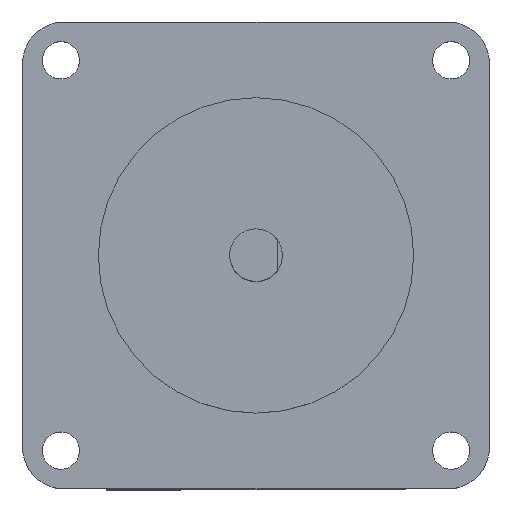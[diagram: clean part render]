
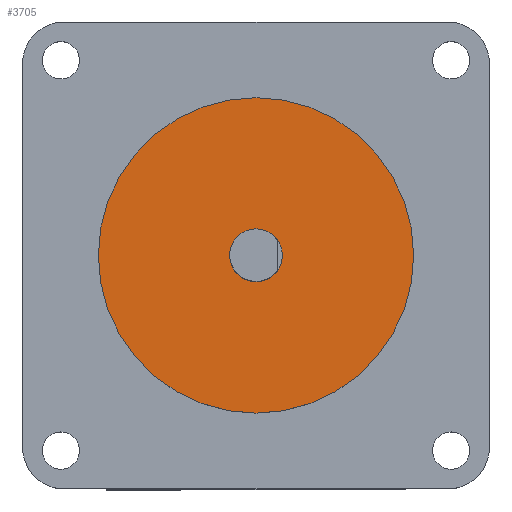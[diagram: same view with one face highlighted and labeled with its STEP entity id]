
A CAD part, top view. The second image highlights one B-rep face of the part: STEP entity #3705.
In plain terms, the highlighted planar face has unit normal (0, 0, 1).
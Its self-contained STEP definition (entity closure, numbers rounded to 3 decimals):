
#5 = CARTESIAN_POINT ( 'NONE',  ( 0., 0., 1.6 ) ) ;
#21 = CIRCLE ( 'NONE', #1662, 3.175 ) ;
#42 = DIRECTION ( 'NONE',  ( 1., 0., 0. ) ) ;
#68 = VERTEX_POINT ( 'NONE', #865 ) ;
#112 = EDGE_LOOP ( 'NONE', ( #2567, #195 ) ) ;
#195 = ORIENTED_EDGE ( 'NONE', *, *, #3518, .T. ) ;
#228 = ORIENTED_EDGE ( 'NONE', *, *, #4300, .T. ) ;
#303 = DIRECTION ( 'NONE',  ( 0., 0., 1. ) ) ;
#372 = DIRECTION ( 'NONE',  ( 1., 0., 0. ) ) ;
#378 = CARTESIAN_POINT ( 'NONE',  ( 0., 0., 1.6 ) ) ;
#704 = DIRECTION ( 'NONE',  ( 1., 0., 0. ) ) ;
#837 = CARTESIAN_POINT ( 'NONE',  ( 19.05, 0., 1.6 ) ) ;
#865 = CARTESIAN_POINT ( 'NONE',  ( -3.175, 0., 1.6 ) ) ;
#1021 = VERTEX_POINT ( 'NONE', #4201 ) ;
#1285 = AXIS2_PLACEMENT_3D ( 'NONE', #378, #2681, #704 ) ;
#1516 = FACE_BOUND ( 'NONE', #2668, .T. ) ;
#1542 = EDGE_CURVE ( 'NONE', #1021, #2063, #3403, .T. ) ;
#1595 = VERTEX_POINT ( 'NONE', #4007 ) ;
#1662 = AXIS2_PLACEMENT_3D ( 'NONE', #5, #2363, #372 ) ;
#1665 = AXIS2_PLACEMENT_3D ( 'NONE', #4069, #2070, #42 ) ;
#2017 = CARTESIAN_POINT ( 'NONE',  ( 0., 0., 1.6 ) ) ;
#2063 = VERTEX_POINT ( 'NONE', #837 ) ;
#2070 = DIRECTION ( 'NONE',  ( 0., 0., 1. ) ) ;
#2309 = CARTESIAN_POINT ( 'NONE',  ( 0., 0., 1.6 ) ) ;
#2350 = DIRECTION ( 'NONE',  ( 1., 0., 0. ) ) ;
#2363 = DIRECTION ( 'NONE',  ( 0., 0., -1. ) ) ;
#2423 = CIRCLE ( 'NONE', #1285, 3.175 ) ;
#2567 = ORIENTED_EDGE ( 'NONE', *, *, #1542, .T. ) ;
#2617 = DIRECTION ( 'NONE',  ( 1., 0., 0. ) ) ;
#2668 = EDGE_LOOP ( 'NONE', ( #228, #2991 ) ) ;
#2681 = DIRECTION ( 'NONE',  ( 0., 0., -1. ) ) ;
#2741 = AXIS2_PLACEMENT_3D ( 'NONE', #2309, #303, #2617 ) ;
#2859 = AXIS2_PLACEMENT_3D ( 'NONE', #2017, #4319, #2350 ) ;
#2991 = ORIENTED_EDGE ( 'NONE', *, *, #3209, .T. ) ;
#3209 = EDGE_CURVE ( 'NONE', #1595, #68, #21, .T. ) ;
#3269 = FACE_OUTER_BOUND ( 'NONE', #112, .T. ) ;
#3319 = CIRCLE ( 'NONE', #2859, 19.05 ) ;
#3373 = PLANE ( 'NONE',  #1665 ) ;
#3403 = CIRCLE ( 'NONE', #2741, 19.05 ) ;
#3518 = EDGE_CURVE ( 'NONE', #2063, #1021, #3319, .T. ) ;
#3705 = ADVANCED_FACE ( 'NONE', ( #3269, #1516 ), #3373, .T. ) ;
#4007 = CARTESIAN_POINT ( 'NONE',  ( 3.175, 0., 1.6 ) ) ;
#4069 = CARTESIAN_POINT ( 'NONE',  ( 0., 0., 1.6 ) ) ;
#4201 = CARTESIAN_POINT ( 'NONE',  ( -19.05, 0., 1.6 ) ) ;
#4300 = EDGE_CURVE ( 'NONE', #68, #1595, #2423, .T. ) ;
#4319 = DIRECTION ( 'NONE',  ( 0., 0., 1. ) ) ;
